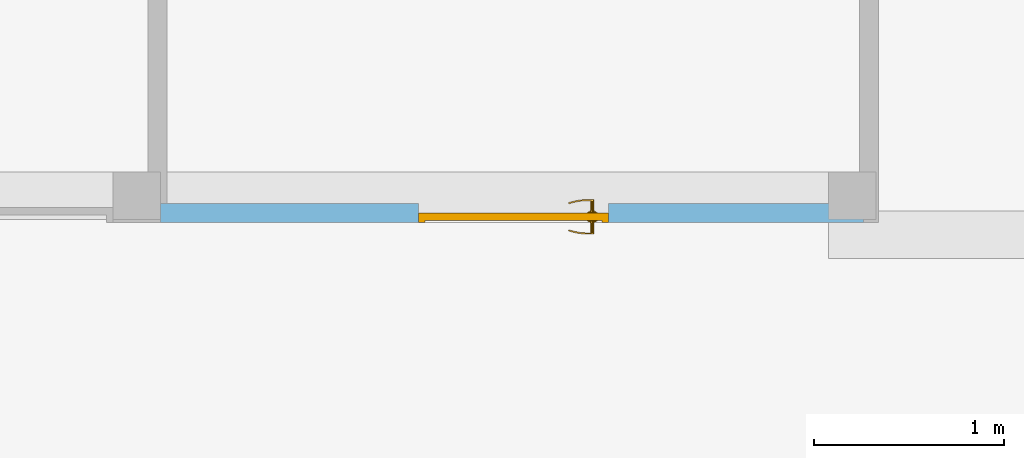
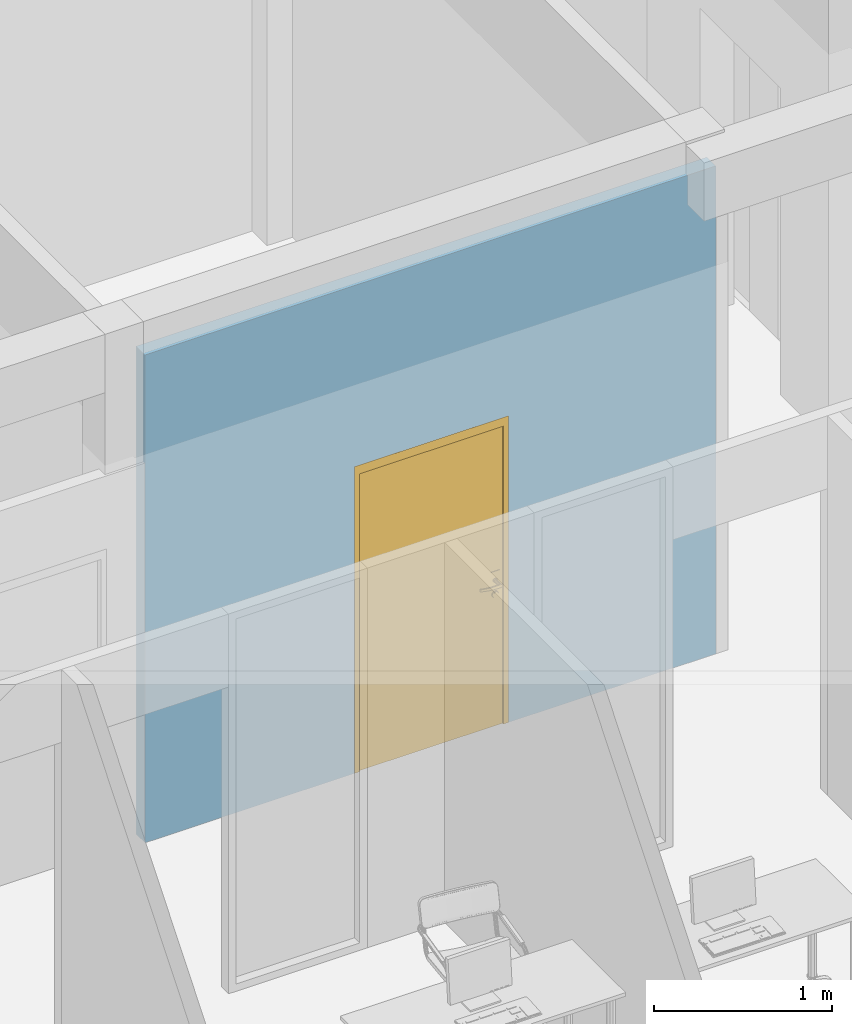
# One storey, part 37 of 91: 1 door, 1 opening, plus 1 element that does not belong to this part.
"""IFC2X3 building model written with IfcOpenShell, lengths in metres."""

from ifc_helpers import new_model, entity, si_unit, converted_unit, derived_unit, money_unit, direction, frame, origin_with_axes, origin_2d_with_axis, place, context, subcontext, project, spatial, polyline, rectangle, outline, extrude, open_shell, faceted_brep, surface_model, material, layer, layer_set, layer_usage, type_object, element, fill, save


model = new_model("IFC2X3")

# Units and contexts
model_context = context("Model", 3, precision=1e-05, world=origin_with_axes(), true_north=direction((0.0, 1.0)))
body_context = subcontext(model_context, "Body", "Model", "MODEL_VIEW")
ifc_project = project(units=[si_unit("LENGTHUNIT", "METRE"), si_unit("AREAUNIT", "SQUARE_METRE"), si_unit("VOLUMEUNIT", "CUBIC_METRE"), converted_unit("PLANEANGLEUNIT", "DEGREE", entity("IfcPlaneAngleMeasure", 0.0174532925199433), si_unit("PLANEANGLEUNIT", "RADIAN"), dimensions=[0, 0, 0, 0, 0, 0, 0]), money_unit("EUR"), converted_unit("TIMEUNIT", "Year", entity("IfcTimeMeasure", 31557600.0), si_unit("TIMEUNIT", "SECOND"), dimensions=[0, 0, 1, 0, 0, 0, 0]), si_unit("MASSUNIT", "GRAM", prefix="KILO"), si_unit("THERMODYNAMICTEMPERATUREUNIT", "DEGREE_CELSIUS"), si_unit("LUMINOUSINTENSITYUNIT", "LUMEN"), si_unit("ENERGYUNIT", "JOULE", prefix="MEGA"), derived_unit("THERMALCONDUCTANCEUNIT", [(si_unit("POWERUNIT", "WATT"), 1), (si_unit("LENGTHUNIT", "METRE"), -1), (si_unit("THERMODYNAMICTEMPERATUREUNIT", "KELVIN"), -1)]), derived_unit("SPECIFICHEATCAPACITYUNIT", [(si_unit("ENERGYUNIT", "JOULE"), 1), (si_unit("MASSUNIT", "GRAM", prefix="KILO"), -1), (si_unit("THERMODYNAMICTEMPERATUREUNIT", "KELVIN"), -1)]), derived_unit("MASSDENSITYUNIT", [(si_unit("MASSUNIT", "GRAM", prefix="KILO"), 1), (si_unit("VOLUMEUNIT", "CUBIC_METRE"), -1)])], contexts=[model_context])

# Site, building, storey
site_placement = place(None, origin_with_axes())
site = spatial("IfcSite", under=ifc_project, at=site_placement, Name="Site", CompositionType="ELEMENT")
building_placement = place(site_placement, origin_with_axes())
building = spatial("IfcBuilding", under=site, at=building_placement, Name="Bâtiment", CompositionType="ELEMENT")
storey_placement = place(building_placement, origin_with_axes())
storey = spatial("IfcBuildingStorey", under=building, at=storey_placement, Name="RDC", CompositionType="ELEMENT", Elevation=0.0)

# Wall, opening, door
ifc_material_1 = material(Name="*PLAQUE DE PLATRE - CLOISON")
ifc_layer_1 = layer(ifc_material_1, 0.026, ventilated="UNKNOWN")
ifc_material_2 = material(Name="*GENERIQUE - ISOLATION INT")
ifc_layer_2 = layer(ifc_material_2, 0.048, ventilated="UNKNOWN")
ifc_layer_3 = layer(ifc_material_1, 0.026, ventilated="UNKNOWN")
ifc_layer_set = layer_set([ifc_layer_1, ifc_layer_2, ifc_layer_3], Name="*Cloison 98")
ifc_layer_usage = layer_usage(ifc_layer_set, "AXIS2", "NEGATIVE", 0.0)
wall_type = type_object("IfcWallType", Name="*Cloison 98 100", PredefinedType="NOTDEFINED")
wall_placement = place(storey_placement, frame((32.61300800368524, -21.59756192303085, 0.0), z_axis=(0.0, 0.0, 1.0), x_axis=(-1.0, 0.0, 0.0)))
wall = element("IfcWallStandardCase", 1, at=wall_placement, inside=storey, type_object=wall_type, material=ifc_layer_usage, Name="Cloison ép.10 - CF1h", context=body_context, shape_type="SweptSolid", body=[
    extrude(outline(polyline([(0.0, -0.1000000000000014), (3.697624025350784, -0.1000000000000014), (3.697624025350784, 0.0), (0.0, 0.0), (0.0, -0.1000000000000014)])), origin_with_axes(), (0.0, 0.0, 1.0), 3.34),
])
opening_placement = place(wall_placement, frame((1.841311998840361, 0.0, 0.0), z_axis=(0.0, 0.0, 1.0), x_axis=(1.0, 0.0, 0.0)))
opening = element("IfcOpeningElement", 2, at=opening_placement, cuts=wall, Name="Pi.04 REI30", context=body_context, shape_type="SweptSolid", body=[
    extrude(rectangle(XDim=1.0, YDim=2.1, at=origin_2d_with_axis()), frame((0.0, -0.1000000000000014, 1.05), z_axis=(0.0, -1.0, 0.0), x_axis=(1.0, 0.0, 0.0)), (0.0, 0.0, -1.0), 0.3),
])
door_style = type_object("IfcDoorStyle", Name="Porte 27", ConstructionType="NOTDEFINED", OperationType="SINGLE_SWING_LEFT", ParameterTakesPrecedence=False, Sizeable=False)
door_placement = place(opening_placement, frame((0.5, 0.0, 0.0), z_axis=(0.0, 0.0, 1.0), x_axis=(-1.0, 0.0, 0.0)))
door = element("IfcDoor", 3, at=door_placement, inside=storey, type_object=door_style, Name="Pi.04 REI30", OverallHeight=2.1, OverallWidth=1.0, context=body_context, shape_type="SurfaceModel", body=[
    faceted_brep([(1.0, 0.05000000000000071, 0.0), (1.0, 0.0, 0.0), (0.9649999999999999, 0.0, 0.0), (0.9649999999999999, 0.05000000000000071, 0.0), (1.0, 0.05000000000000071, 2.04), (1.0, 0.0, 2.04), (0.9649999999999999, 0.0, 2.04), (0.9649999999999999, 0.05000000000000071, 2.04)], [[[0, 1, 2, 3]], [[4, 5, 1, 0]], [[1, 5, 6, 2]], [[3, 2, 6, 7]], [[0, 3, 7, 4]], [[7, 6, 5, 4]]]),
    faceted_brep([(0.0, 0.05000000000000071, 0.0), (0.0, 0.0, 0.0), (0.0, 0.0, 2.04), (0.0, 0.05000000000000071, 2.04), (0.03500000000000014, 0.05000000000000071, 0.0), (0.03500000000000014, 0.0, 0.0), (0.03500000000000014, 0.0, 2.04), (0.03500000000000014, 0.05000000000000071, 2.04)], [[[0, 1, 2, 3]], [[4, 5, 1, 0]], [[1, 5, 6, 2]], [[3, 2, 6, 7]], [[0, 3, 7, 4]], [[7, 6, 5, 4]]]),
    faceted_brep([(1.0, 0.05000000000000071, 2.1), (1.0, 0.0, 2.1), (1.0, 0.0, 2.04), (1.0, 0.05000000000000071, 2.04), (0.0, 0.05000000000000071, 2.1), (0.0, 0.0, 2.1), (0.0, 0.0, 2.04), (0.03500000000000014, 0.0, 2.04), (0.9649999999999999, 0.0, 2.04), (0.9649999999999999, 0.05000000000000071, 2.04), (0.03500000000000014, 0.05000000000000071, 2.04), (0.0, 0.05000000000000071, 2.04)], [[[0, 1, 2, 3]], [[4, 5, 1, 0]], [[1, 5, 6, 7, 8, 2]], [[3, 2, 8, 9]], [[0, 3, 9, 10, 11, 4]], [[11, 6, 5, 4]], [[10, 7, 6, 11]], [[9, 8, 7, 10]]]),
    faceted_brep([(0.9435000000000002, 0.01000000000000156, 1.06), (0.8865000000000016, 0.01000000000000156, 1.06), (0.8865000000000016, 0.00700000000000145, 1.06), (0.9435000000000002, 0.00700000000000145, 1.06), (0.9435000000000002, 0.01000000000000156, 0.87), (0.8865000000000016, 0.01000000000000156, 0.87), (0.8865000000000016, 0.00700000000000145, 0.87), (0.9435000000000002, 0.00700000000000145, 0.87)], [[[0, 1, 2, 3]], [[0, 4, 5, 1]], [[1, 5, 6, 2]], [[3, 2, 6, 7]], [[4, 0, 3, 7]], [[5, 4, 7, 6]]]),
    faceted_brep([(0.9149999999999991, -0.05399999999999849, 0.99), (0.9200000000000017, -0.05399999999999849, 0.9913397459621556), (0.9200000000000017, -0.06099999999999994, 0.9913397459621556), (0.9149999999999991, -0.06099999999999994, 0.99), (0.8900000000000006, -0.05399999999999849, 0.99), (0.8900000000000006, -0.05399999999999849, 1.01), (0.9149999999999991, -0.05399999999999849, 1.01), (0.9200000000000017, -0.05399999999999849, 1.008660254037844), (0.9236602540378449, -0.05399999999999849, 1.005), (0.9250000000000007, -0.05399999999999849, 1.0), (0.9236602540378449, -0.05399999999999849, 0.995), (0.9236602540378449, -0.06099999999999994, 0.995), (0.9250000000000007, -0.06099999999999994, 1.0), (0.9236602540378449, -0.06099999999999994, 1.005), (0.9200000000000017, -0.06099999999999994, 1.008660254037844), (0.9149999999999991, -0.06099999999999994, 1.01), (0.8900000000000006, -0.06099999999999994, 1.01), (0.8900000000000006, -0.06099999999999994, 0.99)], [[[0, 1, 2, 3]], [[0, 4, 5, 6, 7, 8, 9, 10, 1]], [[1, 10, 11, 2]], [[3, 2, 11, 12, 13, 14, 15, 16, 17]], [[4, 0, 3, 17]], [[5, 4, 17, 16]], [[6, 5, 16, 15]], [[7, 6, 15, 14]], [[8, 7, 14, 13]], [[9, 8, 13, 12]], [[10, 9, 12, 11]]]),
    surface_model("IfcShellBasedSurfaceModel", [(0.8900000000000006, -0.05399999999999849, 1.01), (0.8769017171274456, -0.05399999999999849, 1.009607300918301), (0.8765960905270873, -0.06099999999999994, 1.009607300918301), (0.8900000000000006, -0.05399999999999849, 0.99), (0.8769017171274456, -0.05399999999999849, 0.9903926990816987), (0.8498902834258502, -0.05866354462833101, 1.008821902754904), (0.8900000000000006, -0.06099999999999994, 1.01), (0.8900000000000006, -0.06099999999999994, 0.99), (0.8508048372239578, -0.05171681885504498, 0.9911780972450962), (0.8508048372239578, -0.05171681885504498, 1.008821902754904), (0.8498902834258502, -0.05866354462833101, 0.9911780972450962), (0.8765960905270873, -0.06099999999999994, 0.9903926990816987), (0.8250062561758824, -0.047167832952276, 0.9919634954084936), (0.8250062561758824, -0.047167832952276, 1.008036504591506), (0.8234897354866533, -0.05400841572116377, 1.008036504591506), (0.8234897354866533, -0.05400841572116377, 0.9919634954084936), (0.7997023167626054, -0.04038766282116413, 0.9927488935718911), (0.7997023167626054, -0.04038766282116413, 1.007251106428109), (0.7975953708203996, -0.04707004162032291, 1.007251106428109), (0.7975953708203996, -0.04707004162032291, 0.9927488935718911), (0.7918294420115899, -0.03752217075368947, 0.993), (0.7918294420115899, -0.03752217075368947, 1.007), (0.7895387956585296, -0.04413768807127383, 1.007), (0.7895387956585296, -0.04413768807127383, 0.993)], [open_shell([[[0, 1, 2]], [[0, 3, 4, 1]], [[1, 5, 2]], [[0, 2, 6]], [[4, 3, 7]], [[1, 4, 8, 9]], [[1, 9, 5]], [[2, 5, 10, 11]], [[6, 2, 11, 7]], [[4, 7, 11]], [[8, 4, 11]], [[9, 8, 12, 13]], [[9, 14, 5]], [[5, 14, 15, 10]], [[8, 11, 10]], [[12, 8, 10]], [[13, 12, 16, 17]], [[9, 13, 14]], [[14, 18, 19, 15]], [[12, 10, 15]], [[16, 12, 15]], [[17, 16, 20, 21]], [[13, 17, 18]], [[13, 18, 14]], [[18, 22, 23, 19]], [[16, 15, 19]], [[20, 16, 19]], [[21, 20, 23, 22]], [[17, 21, 22]], [[17, 22, 18]], [[20, 19, 23]]])]),
    faceted_brep([(0.904607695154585, -0.003000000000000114, 0.994), (0.9029999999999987, -0.003000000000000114, 1.0), (0.902000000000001, 0.00700000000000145, 1.0), (0.9037416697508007, 0.00700000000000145, 0.9935), (0.9089999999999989, -0.003000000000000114, 0.9896076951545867), (0.9149999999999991, -0.003000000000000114, 0.988), (0.9209999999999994, -0.003000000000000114, 0.9896076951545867), (0.9253923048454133, -0.003000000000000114, 0.994), (0.9269999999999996, -0.003000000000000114, 1.0), (0.9253923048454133, -0.003000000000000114, 1.006), (0.9209999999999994, -0.003000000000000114, 1.010392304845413), (0.9149999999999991, -0.003000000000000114, 1.012), (0.9089999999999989, -0.003000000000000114, 1.010392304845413), (0.904607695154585, -0.003000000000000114, 1.006), (0.9037416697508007, 0.00700000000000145, 1.0065), (0.9085000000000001, 0.00700000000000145, 1.011258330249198), (0.9149999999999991, 0.00700000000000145, 1.013), (0.9214999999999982, 0.00700000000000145, 1.011258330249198), (0.9262583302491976, 0.00700000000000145, 1.0065), (0.9280000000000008, 0.00700000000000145, 1.0), (0.9262583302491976, 0.00700000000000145, 0.9934999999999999), (0.9214999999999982, 0.00700000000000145, 0.9887416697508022), (0.9149999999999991, 0.00700000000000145, 0.987), (0.9085000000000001, 0.00700000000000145, 0.9887416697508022)], [[[0, 1, 2, 3]], [[1, 0, 4, 5, 6, 7, 8, 9, 10, 11, 12, 13]], [[1, 13, 14, 2]], [[2, 14, 15, 16, 17, 18, 19, 20, 21, 22, 23, 3]], [[4, 0, 3, 23]], [[5, 4, 23, 22]], [[6, 5, 22, 21]], [[7, 6, 21, 20]], [[8, 7, 20, 19]], [[9, 8, 19, 18]], [[10, 9, 18, 17]], [[11, 10, 17, 16]], [[12, 11, 16, 15]], [[13, 12, 15, 14]]]),
    faceted_brep([(0.8976794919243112, 0.003000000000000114, 0.895), (0.8949999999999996, 0.003000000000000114, 0.905), (0.8930000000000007, 0.00700000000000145, 0.905), (0.8959474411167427, 0.00700000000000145, 0.894), (0.9050000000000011, 0.003000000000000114, 0.8876794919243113), (0.9149999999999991, 0.003000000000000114, 0.885), (0.9250000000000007, 0.003000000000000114, 0.8876794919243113), (0.9323205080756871, 0.003000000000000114, 0.895), (0.9349999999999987, 0.003000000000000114, 0.905), (0.9323205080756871, 0.003000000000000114, 0.915), (0.9250000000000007, 0.003000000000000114, 0.9223205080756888), (0.9149999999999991, 0.003000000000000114, 0.925), (0.9050000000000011, 0.003000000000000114, 0.9223205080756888), (0.8976794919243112, 0.003000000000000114, 0.915), (0.8959474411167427, 0.00700000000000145, 0.916), (0.9039999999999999, 0.00700000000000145, 0.9240525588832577), (0.9149999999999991, 0.00700000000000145, 0.927), (0.9259999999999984, 0.00700000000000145, 0.9240525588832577), (0.9340525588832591, 0.00700000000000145, 0.916), (0.9370000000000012, 0.00700000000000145, 0.905), (0.9340525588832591, 0.00700000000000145, 0.894), (0.9259999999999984, 0.00700000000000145, 0.8859474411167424), (0.9149999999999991, 0.00700000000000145, 0.883), (0.9039999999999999, 0.00700000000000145, 0.8859474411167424)], [[[0, 1, 2, 3]], [[1, 0, 4, 5, 6, 7, 8, 9, 10, 11, 12, 13]], [[1, 13, 14, 2]], [[2, 14, 15, 16, 17, 18, 19, 20, 21, 22, 23, 3]], [[4, 0, 3, 23]], [[5, 4, 23, 22]], [[6, 5, 22, 21]], [[7, 6, 21, 20]], [[8, 7, 20, 19]], [[9, 8, 19, 18]], [[10, 9, 18, 17]], [[11, 10, 17, 16]], [[12, 11, 16, 15]], [[13, 12, 15, 14]]]),
    faceted_brep([(0.9100502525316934, 0.001000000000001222, 0.9090502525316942), (0.9080000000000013, 0.001000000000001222, 0.914), (0.907, 0.003000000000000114, 0.914), (0.9093431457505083, 0.003000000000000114, 0.9083431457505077), (0.9149999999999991, 0.001000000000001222, 0.907), (0.9199497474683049, 0.001000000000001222, 0.9090502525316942), (0.9220000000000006, 0.001000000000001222, 0.914), (0.9199497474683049, 0.001000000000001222, 0.9189497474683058), (0.9149999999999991, 0.001000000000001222, 0.921), (0.9100502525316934, 0.001000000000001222, 0.9189497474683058), (0.9093431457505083, 0.003000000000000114, 0.9196568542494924), (0.9149999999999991, 0.003000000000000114, 0.922), (0.9206568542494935, 0.003000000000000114, 0.9196568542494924), (0.9229999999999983, 0.003000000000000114, 0.914), (0.9206568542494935, 0.003000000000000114, 0.9083431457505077), (0.9149999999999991, 0.003000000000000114, 0.906)], [[[0, 1, 2, 3]], [[1, 0, 4, 5, 6, 7, 8, 9]], [[1, 9, 10, 2]], [[2, 10, 11, 12, 13, 14, 15, 3]], [[4, 0, 3, 15]], [[5, 4, 15, 14]], [[6, 5, 14, 13]], [[7, 6, 13, 12]], [[8, 7, 12, 11]], [[9, 8, 11, 10]]]),
    faceted_brep([(0.9149999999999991, -0.003000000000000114, 1.01), (0.9100000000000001, -0.003000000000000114, 1.008660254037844), (0.9100000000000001, -0.05399999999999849, 1.008660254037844), (0.9149999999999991, -0.05399999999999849, 1.01), (0.9200000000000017, -0.003000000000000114, 1.008660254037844), (0.9236602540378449, -0.003000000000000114, 1.005), (0.9250000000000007, -0.003000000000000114, 1.0), (0.9236602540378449, -0.003000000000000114, 0.995), (0.9200000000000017, -0.003000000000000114, 0.9913397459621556), (0.9149999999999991, -0.003000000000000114, 0.99), (0.9100000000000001, -0.003000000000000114, 0.9913397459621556), (0.9063397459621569, -0.003000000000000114, 0.995), (0.9050000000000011, -0.003000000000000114, 1.0), (0.9063397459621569, -0.003000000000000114, 1.005), (0.9063397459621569, -0.05399999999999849, 1.005), (0.9050000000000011, -0.05399999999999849, 1.0), (0.9063397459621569, -0.05399999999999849, 0.995), (0.9100000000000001, -0.05399999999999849, 0.9913397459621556), (0.9149999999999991, -0.05399999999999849, 0.99), (0.9200000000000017, -0.05399999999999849, 0.9913397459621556), (0.9236602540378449, -0.05399999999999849, 0.995), (0.9250000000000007, -0.05399999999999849, 1.0), (0.9236602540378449, -0.05399999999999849, 1.005), (0.9200000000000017, -0.05399999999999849, 1.008660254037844)], [[[0, 1, 2, 3]], [[0, 4, 5, 6, 7, 8, 9, 10, 11, 12, 13, 1]], [[1, 13, 14, 2]], [[3, 2, 14, 15, 16, 17, 18, 19, 20, 21, 22, 23]], [[4, 0, 3, 23]], [[5, 4, 23, 22]], [[6, 5, 22, 21]], [[7, 6, 21, 20]], [[8, 7, 20, 19]], [[9, 8, 19, 18]], [[10, 9, 18, 17]], [[11, 10, 17, 16]], [[12, 11, 16, 15]], [[13, 12, 15, 14]]]),
    faceted_brep([(0.9435000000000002, 0.05000000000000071, 1.06), (0.9435000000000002, 0.05300000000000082, 1.06), (0.8865000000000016, 0.05300000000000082, 1.06), (0.8865000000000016, 0.05000000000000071, 1.06), (0.9435000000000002, 0.05000000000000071, 0.87), (0.9435000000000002, 0.05300000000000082, 0.87), (0.8865000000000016, 0.05300000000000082, 0.87), (0.8865000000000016, 0.05000000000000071, 0.87)], [[[0, 1, 2, 3]], [[4, 5, 1, 0]], [[1, 5, 6, 2]], [[3, 2, 6, 7]], [[0, 3, 7, 4]], [[7, 6, 5, 4]]]),
    faceted_brep([(0.9149999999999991, 0.1140000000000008, 0.99), (0.9149999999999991, 0.1210000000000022, 0.99), (0.9200000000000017, 0.1210000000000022, 0.9913397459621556), (0.9200000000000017, 0.1140000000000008, 0.9913397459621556), (0.8900000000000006, 0.1140000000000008, 0.99), (0.8900000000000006, 0.1210000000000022, 0.99), (0.8900000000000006, 0.1210000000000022, 1.01), (0.9149999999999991, 0.1210000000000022, 1.01), (0.9200000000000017, 0.1210000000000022, 1.008660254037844), (0.9236602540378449, 0.1210000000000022, 1.005), (0.9250000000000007, 0.1210000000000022, 1.0), (0.9236602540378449, 0.1210000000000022, 0.995), (0.9236602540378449, 0.1140000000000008, 0.995), (0.9250000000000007, 0.1140000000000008, 1.0), (0.9236602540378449, 0.1140000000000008, 1.005), (0.9200000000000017, 0.1140000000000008, 1.008660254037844), (0.9149999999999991, 0.1140000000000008, 1.01), (0.8900000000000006, 0.1140000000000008, 1.01)], [[[0, 1, 2, 3]], [[4, 5, 1, 0]], [[1, 5, 6, 7, 8, 9, 10, 11, 2]], [[3, 2, 11, 12]], [[0, 3, 12, 13, 14, 15, 16, 17, 4]], [[17, 6, 5, 4]], [[16, 7, 6, 17]], [[15, 8, 7, 16]], [[14, 9, 8, 15]], [[13, 10, 9, 14]], [[12, 11, 10, 13]]]),
    surface_model("IfcShellBasedSurfaceModel", [(0.8900000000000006, 0.1140000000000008, 1.01), (0.8765960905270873, 0.1210000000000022, 1.009607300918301), (0.8769017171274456, 0.1140000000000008, 1.009607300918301), (0.8900000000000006, 0.1210000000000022, 1.01), (0.8498902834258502, 0.1186635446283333, 1.008821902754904), (0.8769017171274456, 0.1140000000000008, 0.9903926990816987), (0.8900000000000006, 0.1140000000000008, 0.99), (0.8900000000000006, 0.1210000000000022, 0.99), (0.8765960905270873, 0.1210000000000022, 0.9903926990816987), (0.8498902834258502, 0.1186635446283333, 0.9911780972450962), (0.8508048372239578, 0.1117168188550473, 1.008821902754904), (0.8508048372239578, 0.1117168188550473, 0.9911780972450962), (0.8234897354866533, 0.114008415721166, 0.9919634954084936), (0.8234897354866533, 0.114008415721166, 1.008036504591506), (0.8250062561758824, 0.1071678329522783, 1.008036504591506), (0.8250062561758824, 0.1071678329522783, 0.9919634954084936), (0.7975953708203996, 0.1070700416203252, 0.9927488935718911), (0.7975953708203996, 0.1070700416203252, 1.007251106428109), (0.7997023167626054, 0.1003876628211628, 1.007251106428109), (0.7997023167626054, 0.1003876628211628, 0.9927488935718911), (0.7895387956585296, 0.1041376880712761, 0.993), (0.7895387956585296, 0.1041376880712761, 1.007), (0.7918294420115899, 0.09752217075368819, 1.007), (0.7918294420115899, 0.09752217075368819, 0.993)], [open_shell([[[0, 1, 2]], [[0, 3, 1]], [[2, 1, 4]], [[0, 2, 5, 6]], [[3, 7, 8, 1]], [[1, 8, 9, 4]], [[2, 4, 10]], [[2, 10, 11, 5]], [[5, 7, 6]], [[5, 8, 7]], [[11, 9, 8]], [[4, 9, 12, 13]], [[10, 4, 13]], [[10, 14, 15, 11]], [[11, 8, 5]], [[15, 9, 11]], [[15, 12, 9]], [[13, 12, 16, 17]], [[10, 13, 14]], [[14, 18, 19, 15]], [[19, 12, 15]], [[19, 16, 12]], [[17, 16, 20, 21]], [[14, 13, 17]], [[14, 17, 18]], [[18, 22, 23, 19]], [[23, 16, 19]], [[23, 20, 16]], [[22, 21, 20, 23]], [[18, 17, 21]], [[18, 21, 22]]])]),
    faceted_brep([(0.904607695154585, 0.06299999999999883, 0.994), (0.9037416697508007, 0.05300000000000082, 0.9935), (0.902000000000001, 0.05300000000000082, 1.0), (0.9029999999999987, 0.06299999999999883, 1.0), (0.9089999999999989, 0.06299999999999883, 0.9896076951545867), (0.9085000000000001, 0.05300000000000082, 0.9887416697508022), (0.9149999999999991, 0.05300000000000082, 0.987), (0.9214999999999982, 0.05300000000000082, 0.9887416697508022), (0.9262583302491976, 0.05300000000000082, 0.9934999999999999), (0.9280000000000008, 0.05300000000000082, 1.0), (0.9262583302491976, 0.05300000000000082, 1.0065), (0.9214999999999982, 0.05300000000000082, 1.011258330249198), (0.9149999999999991, 0.05300000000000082, 1.013), (0.9085000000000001, 0.05300000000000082, 1.011258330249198), (0.9037416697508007, 0.05300000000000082, 1.0065), (0.904607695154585, 0.06299999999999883, 1.006), (0.9089999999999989, 0.06299999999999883, 1.010392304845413), (0.9149999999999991, 0.06299999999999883, 1.012), (0.9209999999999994, 0.06299999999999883, 1.010392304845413), (0.9253923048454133, 0.06299999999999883, 1.006), (0.9269999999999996, 0.06299999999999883, 1.0), (0.9253923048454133, 0.06299999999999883, 0.994), (0.9209999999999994, 0.06299999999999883, 0.9896076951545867), (0.9149999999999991, 0.06299999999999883, 0.988)], [[[0, 1, 2, 3]], [[4, 5, 1, 0]], [[2, 1, 5, 6, 7, 8, 9, 10, 11, 12, 13, 14]], [[3, 2, 14, 15]], [[3, 15, 16, 17, 18, 19, 20, 21, 22, 23, 4, 0]], [[23, 6, 5, 4]], [[22, 7, 6, 23]], [[21, 8, 7, 22]], [[20, 9, 8, 21]], [[19, 10, 9, 20]], [[18, 11, 10, 19]], [[17, 12, 11, 18]], [[16, 13, 12, 17]], [[15, 14, 13, 16]]]),
    faceted_brep([(0.8976794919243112, 0.05700000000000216, 0.895), (0.8959474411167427, 0.05300000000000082, 0.894), (0.8930000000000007, 0.05300000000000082, 0.905), (0.8949999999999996, 0.05700000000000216, 0.905), (0.9050000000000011, 0.05700000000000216, 0.8876794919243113), (0.9039999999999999, 0.05300000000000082, 0.8859474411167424), (0.9149999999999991, 0.05300000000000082, 0.883), (0.9259999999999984, 0.05300000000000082, 0.8859474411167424), (0.9340525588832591, 0.05300000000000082, 0.894), (0.9370000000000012, 0.05300000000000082, 0.905), (0.9340525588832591, 0.05300000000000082, 0.916), (0.9259999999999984, 0.05300000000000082, 0.9240525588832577), (0.9149999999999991, 0.05300000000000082, 0.927), (0.9039999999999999, 0.05300000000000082, 0.9240525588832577), (0.8959474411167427, 0.05300000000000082, 0.916), (0.8976794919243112, 0.05700000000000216, 0.915), (0.9050000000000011, 0.05700000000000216, 0.9223205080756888), (0.9149999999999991, 0.05700000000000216, 0.925), (0.9250000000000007, 0.05700000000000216, 0.9223205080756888), (0.9323205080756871, 0.05700000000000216, 0.915), (0.9349999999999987, 0.05700000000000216, 0.905), (0.9323205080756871, 0.05700000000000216, 0.895), (0.9250000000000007, 0.05700000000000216, 0.8876794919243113), (0.9149999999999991, 0.05700000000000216, 0.885)], [[[0, 1, 2, 3]], [[4, 5, 1, 0]], [[2, 1, 5, 6, 7, 8, 9, 10, 11, 12, 13, 14]], [[3, 2, 14, 15]], [[3, 15, 16, 17, 18, 19, 20, 21, 22, 23, 4, 0]], [[23, 6, 5, 4]], [[22, 7, 6, 23]], [[21, 8, 7, 22]], [[20, 9, 8, 21]], [[19, 10, 9, 20]], [[18, 11, 10, 19]], [[17, 12, 11, 18]], [[16, 13, 12, 17]], [[15, 14, 13, 16]]]),
    faceted_brep([(0.9100502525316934, 0.05900000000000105, 0.9090502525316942), (0.9093431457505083, 0.05700000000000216, 0.9083431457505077), (0.907, 0.05700000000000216, 0.914), (0.9080000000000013, 0.05900000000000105, 0.914), (0.9149999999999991, 0.05900000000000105, 0.907), (0.9149999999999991, 0.05700000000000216, 0.906), (0.9206568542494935, 0.05700000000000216, 0.9083431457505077), (0.9229999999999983, 0.05700000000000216, 0.914), (0.9206568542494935, 0.05700000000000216, 0.9196568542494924), (0.9149999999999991, 0.05700000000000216, 0.922), (0.9093431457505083, 0.05700000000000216, 0.9196568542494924), (0.9100502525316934, 0.05900000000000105, 0.9189497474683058), (0.9149999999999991, 0.05900000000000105, 0.921), (0.9199497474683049, 0.05900000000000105, 0.9189497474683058), (0.9220000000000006, 0.05900000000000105, 0.914), (0.9199497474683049, 0.05900000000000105, 0.9090502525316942)], [[[0, 1, 2, 3]], [[4, 5, 1, 0]], [[2, 1, 5, 6, 7, 8, 9, 10]], [[3, 2, 10, 11]], [[3, 11, 12, 13, 14, 15, 4, 0]], [[15, 6, 5, 4]], [[14, 7, 6, 15]], [[13, 8, 7, 14]], [[12, 9, 8, 13]], [[11, 10, 9, 12]]]),
    faceted_brep([(0.9149999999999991, 0.06299999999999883, 1.01), (0.9149999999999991, 0.1140000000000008, 1.01), (0.9100000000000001, 0.1140000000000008, 1.008660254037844), (0.9100000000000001, 0.06299999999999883, 1.008660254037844), (0.9200000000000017, 0.06299999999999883, 1.008660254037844), (0.9200000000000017, 0.1140000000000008, 1.008660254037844), (0.9236602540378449, 0.1140000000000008, 1.005), (0.9250000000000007, 0.1140000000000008, 1.0), (0.9236602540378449, 0.1140000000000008, 0.995), (0.9200000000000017, 0.1140000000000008, 0.9913397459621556), (0.9149999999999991, 0.1140000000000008, 0.99), (0.9100000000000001, 0.1140000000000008, 0.9913397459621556), (0.9063397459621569, 0.1140000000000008, 0.995), (0.9050000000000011, 0.1140000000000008, 1.0), (0.9063397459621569, 0.1140000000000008, 1.005), (0.9063397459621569, 0.06299999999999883, 1.005), (0.9050000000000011, 0.06299999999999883, 1.0), (0.9063397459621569, 0.06299999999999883, 0.995), (0.9100000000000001, 0.06299999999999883, 0.9913397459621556), (0.9149999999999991, 0.06299999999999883, 0.99), (0.9200000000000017, 0.06299999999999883, 0.9913397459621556), (0.9236602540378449, 0.06299999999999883, 0.995), (0.9250000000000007, 0.06299999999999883, 1.0), (0.9236602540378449, 0.06299999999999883, 1.005)], [[[0, 1, 2, 3]], [[4, 5, 1, 0]], [[1, 5, 6, 7, 8, 9, 10, 11, 12, 13, 14, 2]], [[3, 2, 14, 15]], [[0, 3, 15, 16, 17, 18, 19, 20, 21, 22, 23, 4]], [[23, 6, 5, 4]], [[22, 7, 6, 23]], [[21, 8, 7, 22]], [[20, 9, 8, 21]], [[19, 10, 9, 20]], [[18, 11, 10, 19]], [[17, 12, 11, 18]], [[16, 13, 12, 17]], [[15, 14, 13, 16]]]),
    faceted_brep([(0.03500000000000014, 0.05000000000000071, 0.0), (0.9649999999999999, 0.05000000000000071, 0.0), (0.9649999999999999, 0.01000000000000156, 0.0), (0.03500000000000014, 0.01000000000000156, 0.0), (0.03500000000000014, 0.05000000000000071, 2.04), (0.9649999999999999, 0.05000000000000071, 2.04), (0.9649999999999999, 0.01000000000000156, 2.04), (0.03500000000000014, 0.01000000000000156, 2.04)], [[[0, 1, 2, 3]], [[0, 4, 5, 1]], [[1, 5, 6, 2]], [[3, 2, 6, 7]], [[4, 0, 3, 7]], [[5, 4, 7, 6]]]),
])
fill(opening, door)

save(model, "model.ifc")
